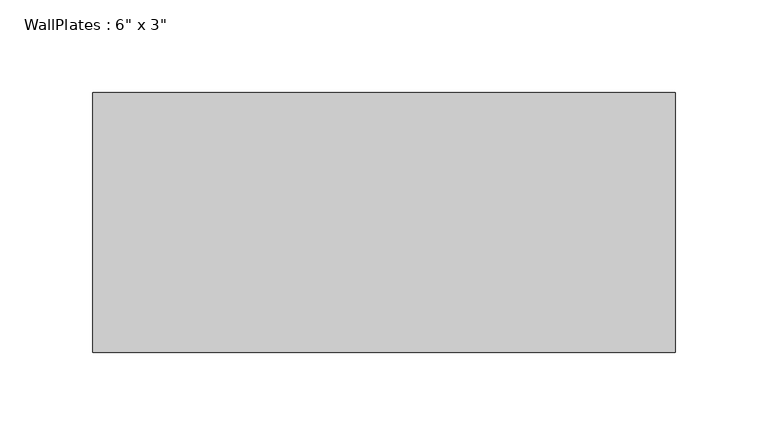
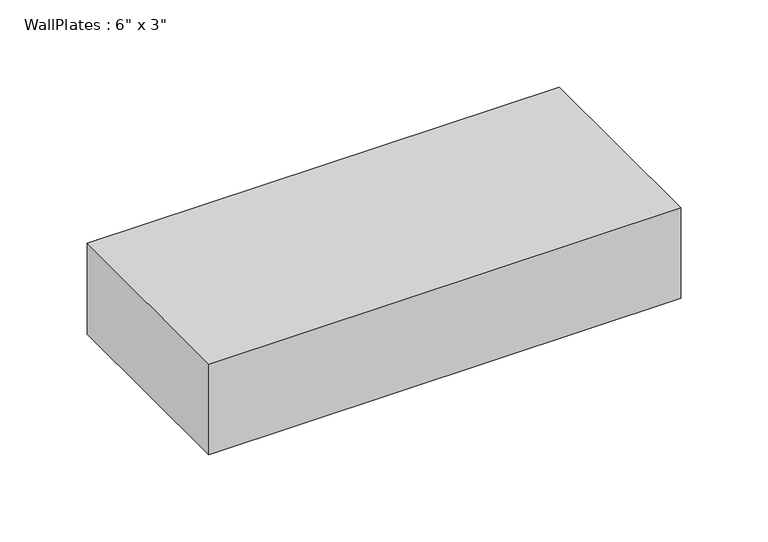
"""IFC4 building model written with IfcOpenShell, lengths in millimetres: beam geometry."""

import ifcopenshell
import ifcopenshell.guid

model = None  # the IFC model being written
_history = None  # IfcOwnerHistory: only IFC2X3 demands one
_inside = {}  # id of a spatial element -> (the spatial element, [elements in it])
_under = {}  # id of a project, library or spatial element -> (it, [spatial elements below it])
_declared = {}  # id of a project -> (the project, [libraries it declares])
_typed = {}  # id of a type object -> (the type object, [elements of that type])
_made_of = {}  # id of a material, layer set ... -> (it, [elements and type objects made of it])


def new_model(schema):
    """Start an empty IFC model of exactly this schema.

    Asked for "IFC4X3", IfcOpenShell would pick the latest addendum, in which some entities
    have other attributes; the version numbers below select the first issue.
    IFC2X3 requires an IfcOwnerHistory on every rooted entity: one is made here for all.
    """
    global model, _history
    if schema == "IFC4X3":
        model = ifcopenshell.file(schema_version=(4, 3, 0, 0))
    else:
        model = ifcopenshell.file(schema=schema)
    _inside.clear()
    _under.clear()
    _declared.clear()
    _typed.clear()
    _made_of.clear()
    _history = None
    if model.schema == "IFC2X3":
        org = make("IfcOrganization", Name="unknown")
        user = make(
            "IfcPersonAndOrganization",
            ThePerson=make("IfcPerson", FamilyName="unknown"),
            TheOrganization=org,
        )
        app = make(
            "IfcApplication",
            ApplicationDeveloper=org,
            Version="unknown",
            ApplicationFullName="unknown",
            ApplicationIdentifier="unknown",
        )
        _history = make(
            "IfcOwnerHistory",
            OwningUser=user,
            OwningApplication=app,
            ChangeAction="ADDED",
            CreationDate=0,
        )
    return model


def make(cls, **values):
    """One entity of the class cls with the attributes given. An attribute that is None is left unset."""
    return model.create_entity(
        cls, **{name: value for name, value in values.items() if value is not None}
    )


def rooted(cls, **values):
    """An entity with a GlobalId (a new one), such as an element, a storey or a relation."""
    return make(cls, GlobalId=ifcopenshell.guid.new(), OwnerHistory=_history, **values)


def si_unit(unit_type, name, prefix=None):
    """IfcSIUnit, for example si_unit("LENGTHUNIT", "METRE", prefix="MILLI")."""
    return make("IfcSIUnit", UnitType=unit_type, Prefix=prefix, Name=name)


def assignment(units):
    """IfcUnitAssignment: the units of a project."""
    return None if units is None else make("IfcUnitAssignment", Units=units)


def point(xyz):
    """IfcCartesianPoint."""
    return None if xyz is None else make("IfcCartesianPoint", Coordinates=xyz)


def direction(xyz):
    """IfcDirection."""
    return None if xyz is None else make("IfcDirection", DirectionRatios=xyz)


def frame(location, z_axis=None, x_axis=None):
    """IfcAxis2Placement3D, a coordinate frame: its origin and axes. An axis left out is left unset."""
    return make(
        "IfcAxis2Placement3D",
        Location=point(location),
        Axis=direction(z_axis),
        RefDirection=direction(x_axis),
    )


def origin():
    """The frame at (0, 0, 0) with its axes left unset."""
    return frame((0.0, 0.0, 0.0))


def place(relative_to, where):
    """IfcLocalPlacement: puts the frame where relative to a parent placement (None: the world)."""
    return make(
        "IfcLocalPlacement", PlacementRelTo=relative_to, RelativePlacement=where
    )


def context(
    kind, dimensions, precision=None, world=None, true_north=None, identifier=None
):
    """IfcGeometricRepresentationContext, for example the 3D "Model" context."""
    return make(
        "IfcGeometricRepresentationContext",
        ContextIdentifier=identifier,
        ContextType=kind,
        CoordinateSpaceDimension=dimensions,
        Precision=precision,
        WorldCoordinateSystem=world,
        TrueNorth=true_north,
    )


def project(units=None, contexts=None):
    """IfcProject with its units and contexts."""
    return rooted(
        "IfcProject",
        Name="project",
        RepresentationContexts=contexts,
        UnitsInContext=assignment(units),
    )


def spatial(cls, under=None, at=None, **own):
    """A site, building, storey or space (cls), placed at a placement, below another one or the project."""
    s = rooted(cls, ObjectPlacement=at, **own)
    if under is not None:
        _under.setdefault(under.id(), (under, []))[1].append(s)
    return s


def polyline(points):
    """IfcPolyline through the points."""
    return make("IfcPolyline", Points=[point(p) for p in points])


def outline(outer, holes=None, kind="AREA"):
    """IfcArbitraryClosedProfileDef: a profile drawn as a closed curve; with holes, ...WithVoids."""
    if holes is None:
        return make("IfcArbitraryClosedProfileDef", ProfileType=kind, OuterCurve=outer)
    return make(
        "IfcArbitraryProfileDefWithVoids",
        ProfileType=kind,
        OuterCurve=outer,
        InnerCurves=holes,
    )


def extrude(swept, where, along, depth):
    """IfcExtrudedAreaSolid: the profile swept, set in the frame where, extruded along a direction by depth."""
    return make(
        "IfcExtrudedAreaSolid",
        SweptArea=swept,
        Position=where,
        ExtrudedDirection=direction(along),
        Depth=depth,
    )


def shape(context_of_items, identifier, shape_type, items):
    """IfcShapeRepresentation: the items that make up one representation, for example the "Body"."""
    return make(
        "IfcShapeRepresentation",
        ContextOfItems=context_of_items,
        RepresentationIdentifier=identifier,
        RepresentationType=shape_type,
        Items=items,
    )


def source(mapping_origin, context_of_items, identifier, shape_type, items):
    """IfcRepresentationMap: a shape defined once, which mapped items show again and again."""
    return make(
        "IfcRepresentationMap",
        MappingOrigin=mapping_origin,
        MappedRepresentation=shape(context_of_items, identifier, shape_type, items),
    )


def transform(
    local_origin,
    x_axis=None,
    y_axis=None,
    z_axis=None,
    scale=None,
    scale2=None,
    scale3=None,
    uniform=True,
):
    """IfcCartesianTransformationOperator3D, or its non-uniform kind. x_axis, y_axis, z_axis: its Axis1, 2, 3."""
    if uniform:
        return make(
            "IfcCartesianTransformationOperator3D",
            Axis1=direction(x_axis),
            Axis2=direction(y_axis),
            LocalOrigin=point(local_origin),
            Scale=scale,
            Axis3=direction(z_axis),
        )
    return make(
        "IfcCartesianTransformationOperator3DnonUniform",
        Axis1=direction(x_axis),
        Axis2=direction(y_axis),
        LocalOrigin=point(local_origin),
        Scale=scale,
        Axis3=direction(z_axis),
        Scale2=scale2,
        Scale3=scale3,
    )


def mapped(mapping_source, mapping_target):
    """IfcMappedItem: shows the shape of a source again, moved by a transform."""
    return make(
        "IfcMappedItem", MappingSource=mapping_source, MappingTarget=mapping_target
    )


def made_of(thing, what):
    """Note that an element or type object is made of a material, layer set ...; save() writes the relation."""
    if what is not None:
        _made_of.setdefault(what.id(), (what, []))[1].append(thing)
    return thing


def element(
    cls,
    number,
    at=None,
    inside=None,
    cuts=None,
    type_object=None,
    material=None,
    context=None,
    identifier="Body",
    shape_type=None,
    held_by="IfcProductDefinitionShape",
    body=None,
    shapes=None,
    **own,
):
    """One element of the class cls, such as IfcWall. Its Tag is "e" and its number.

    at: its placement. inside: the storey or other place that contains it. cuts: it is an
    opening in that element (IfcRelVoidsElement). A single representation is given by context,
    identifier, shape_type and body (its items); several are given by shapes. held_by: the class
    of the entity that holds the representations. save() writes the other relations.
    """
    e = rooted(cls, Tag="e%d" % number, ObjectPlacement=at, **own)
    if body is not None:
        shapes = [shape(context, identifier, shape_type, body)]
    if shapes is not None:
        e.Representation = make(held_by, Representations=shapes)
    if inside is not None:
        _inside.setdefault(inside.id(), (inside, []))[1].append(e)
    if cuts is not None:
        rooted(
            "IfcRelVoidsElement", RelatingBuildingElement=cuts, RelatedOpeningElement=e
        )
    if type_object is not None:
        _typed.setdefault(type_object.id(), (type_object, []))[1].append(e)
    return made_of(e, material)


def aggregate(whole, parts):
    """IfcRelAggregates: a whole, such as a stair, and the parts it consists of."""
    return rooted("IfcRelAggregates", RelatingObject=whole, RelatedObjects=parts)


def save(model, path):
    """Write the relations noted so far, then the file.

    IfcRelAggregates (storeys below a building ...), IfcRelContainedInSpatialStructure (elements
    in a storey), IfcRelDefinesByType, IfcRelAssociatesMaterial and IfcRelDeclares: one each for
    every whole, place, type object, material and project.
    """
    for whole, parts in _under.values():
        aggregate(whole, parts)
    for where, things in _inside.values():
        rooted(
            "IfcRelContainedInSpatialStructure",
            RelatedElements=things,
            RelatingStructure=where,
        )
    for kind, things in _typed.values():
        rooted("IfcRelDefinesByType", RelatedObjects=things, RelatingType=kind)
    for what, things in _made_of.values():
        rooted("IfcRelAssociatesMaterial", RelatedObjects=things, RelatingMaterial=what)
    for by, libraries in _declared.values():
        rooted("IfcRelDeclares", RelatingContext=by, RelatedDefinitions=libraries)
    model.write(path)


def beam_9a696346(model_context):
    return source(origin(), model_context, "Body", "SweptSolid", [
        extrude(outline(polyline([(-156.6333333, -69.85), (-156.6333333, 69.85), (156.6333333, 69.85), (156.6333333, -69.85), (-156.6333333, -69.85)])), frame((0.0, 0.0, -31.75), z_axis=(0.0, 0.0, 1.0), x_axis=(1.0, 0.0, 0.0)), (0.0, 0.0, 1.0), 63.5),
    ])


if __name__ == "__main__":
    model = new_model("IFC4")
    model_context = context("Model", 3, world=origin())
    ifc_project = project(units=[si_unit("LENGTHUNIT", "METRE", prefix="MILLI")], contexts=[model_context])
    site = spatial("IfcSite", under=ifc_project)
    building = spatial("IfcBuilding", under=site)
    placement = place(None, origin())
    beam_shape = beam_9a696346(model_context)
    element("IfcBeam", 1, ObjectType="WallPlates : 6\" x 3\"", at=placement, inside=building, context=model_context, shape_type="MappedRepresentation", body=[
        mapped(beam_shape, transform((0.0, 0.0, 0.0), x_axis=(1.0, 0.0, 0.0), y_axis=(0.0, 1.0, 0.0), z_axis=(0.0, 0.0, 1.0))),
    ])
    save(model, "model.ifc")
